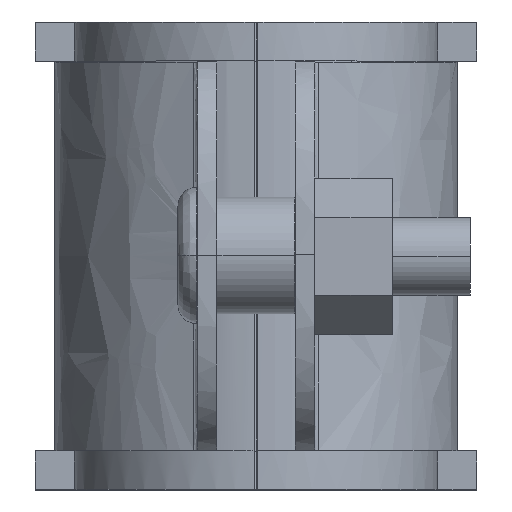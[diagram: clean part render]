
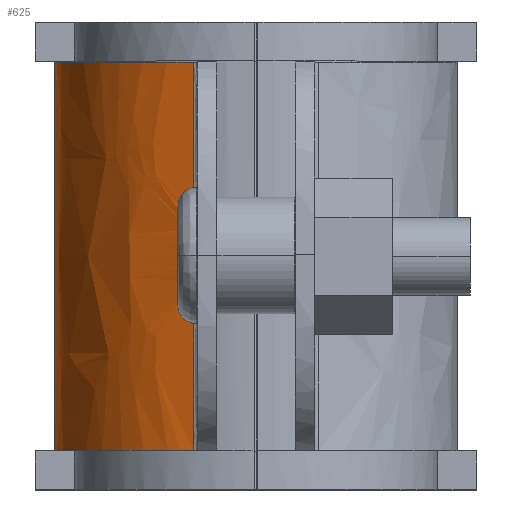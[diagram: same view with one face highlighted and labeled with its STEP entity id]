
A CAD part, top view. The second image highlights one B-rep face of the part: STEP entity #625.
In plain terms, the highlighted free-form (B-spline) face has degree [3, 1] with [4, 2] control points.
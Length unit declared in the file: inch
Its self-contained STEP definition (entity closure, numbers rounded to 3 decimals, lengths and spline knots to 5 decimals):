
#479=EDGE_CURVE('',#1130,#1225,#1226,.T.);
#549=EDGE_CURVE('',#1330,#1225,#1331,.T.);
#625=ADVANCED_FACE('',(#1449),#1450,.T.);
#723=EDGE_CURVE('',#1414,#1130,#1585,.T.);
#835=EDGE_CURVE('',#1736,#1414,#1737,.T.);
#839=EDGE_CURVE('',#1736,#1741,#1742,.T.);
#1130=VERTEX_POINT('',#2140);
#1225=VERTEX_POINT('',#2292);
#1226=B_SPLINE_CURVE_WITH_KNOTS('',3,(#2293,#2294,#2295,#2296),.UNSPECIFIED.,.F.,.F.,(4,4),(0.0,1.0),.UNSPECIFIED.);
#1330=VERTEX_POINT('',#2467);
#1331=LINE('',#2468,#2469);
#1414=VERTEX_POINT('',#2597);
#1449=FACE_OUTER_BOUND('',#2646,.T.);
#1450=B_SPLINE_SURFACE_WITH_KNOTS('',3,1,((#2647,#2648),(#2649,#2650),(#2651,#2652),(#2653,#2654)),.UNSPECIFIED.,.F.,.F.,.F.,(4,4),(2,2),(-1.0,-0.0),(0.0,1.25),.UNSPECIFIED.);
#1585=LINE('',#3059,#3060);
#1736=VERTEX_POINT('',#3382);
#1737=B_SPLINE_CURVE_WITH_KNOTS('',3,(#3383,#3384,#3385,#3386),.UNSPECIFIED.,.F.,.F.,(4,4),(-1.0,-0.0),.UNSPECIFIED.);
#1741=VERTEX_POINT('',#3395);
#1742=LINE('',#3396,#3397);
#2140=CARTESIAN_POINT('',(-0.00041,0.0,1.33029));
#2292=CARTESIAN_POINT('',(0.44449,0.0,1.94408));
#2293=CARTESIAN_POINT('',(-0.00041,0.0,1.33029));
#2294=CARTESIAN_POINT('',(-0.00041,0.0,1.6168));
#2295=CARTESIAN_POINT('',(0.18613,0.0,1.85989));
#2296=CARTESIAN_POINT('',(0.44449,0.0,1.94408));
#2467=CARTESIAN_POINT('',(0.44449,0.51862,1.94408));
#2468=CARTESIAN_POINT('',(0.44449,1.25,1.94408));
#2469=VECTOR('',#4306,1.0);
#2597=CARTESIAN_POINT('',(-0.00041,1.24627,1.33029));
#2646=EDGE_LOOP('',(#4488,#4489,#4490,#4491,#4492,#4493,#4494));
#2647=CARTESIAN_POINT('',(0.44449,1.25,1.94408));
#2648=CARTESIAN_POINT('',(0.44449,0.,1.94408));
#2649=CARTESIAN_POINT('',(0.18613,1.25,1.85989));
#2650=CARTESIAN_POINT('',(0.18613,0.,1.85989));
#2651=CARTESIAN_POINT('',(-0.00041,1.25,1.6168));
#2652=CARTESIAN_POINT('',(-0.00041,0.,1.6168));
#2653=CARTESIAN_POINT('',(-0.00041,1.25,1.33029));
#2654=CARTESIAN_POINT('',(-0.00041,0.,1.33029));
#3059=CARTESIAN_POINT('',(-0.00041,1.25,1.33029));
#3060=VECTOR('',#4676,1.0);
#3382=CARTESIAN_POINT('',(0.44449,1.24627,1.94408));
#3383=CARTESIAN_POINT('',(0.44449,1.24627,1.94408));
#3384=CARTESIAN_POINT('',(0.18613,1.24627,1.85989));
#3385=CARTESIAN_POINT('',(-0.00041,1.24627,1.6168));
#3386=CARTESIAN_POINT('',(-0.00041,1.24627,1.33029));
#3395=CARTESIAN_POINT('',(0.44449,0.73191,1.94408));
#3396=CARTESIAN_POINT('',(0.44449,1.25,1.94408));
#3397=VECTOR('',#4974,1.0);
#4306=DIRECTION('',(0.0,-1.0,0.0));
#4488=ORIENTED_EDGE('',*,*,#5516,.F.);
#4489=ORIENTED_EDGE('',*,*,#839,.F.);
#4490=ORIENTED_EDGE('',*,*,#835,.T.);
#4491=ORIENTED_EDGE('',*,*,#723,.T.);
#4492=ORIENTED_EDGE('',*,*,#479,.T.);
#4493=ORIENTED_EDGE('',*,*,#549,.F.);
#4494=ORIENTED_EDGE('',*,*,#5517,.F.);
#4676=DIRECTION('',(0.0,-1.0,0.0));
#4974=DIRECTION('',(0.0,-1.0,0.0));
#5516=EDGE_CURVE('',#1741,#6042,#6043,.T.);
#5517=EDGE_CURVE('',#6042,#1330,#6044,.T.);
#6042=VERTEX_POINT('',#6862);
#6043=B_SPLINE_CURVE_WITH_KNOTS('',3,(#6863,#6864,#6865,#6866,#6867,#6868,#6869,#6870,#6871,#6872),.UNSPECIFIED.,.F.,.F.,(4,2,2,2,4),(-0.12854,-0.10714,-0.05461,-0.02449,-0.0),.UNSPECIFIED.);
#6044=B_SPLINE_CURVE_WITH_KNOTS('',3,(#6873,#6874,#6875,#6876,#6877,#6878,#6879,#6880,#6881,#6882),.UNSPECIFIED.,.F.,.F.,(4,2,2,2,4),(-0.07927,-0.06566,-0.04948,-0.02197,-0.0),.UNSPECIFIED.);
#6862=CARTESIAN_POINT('',(0.4124,0.62526,1.93266));
#6863=CARTESIAN_POINT('',(0.44449,0.73191,1.94408));
#6864=CARTESIAN_POINT('',(0.44085,0.72853,1.94289));
#6865=CARTESIAN_POINT('',(0.43763,0.72461,1.94181));
#6866=CARTESIAN_POINT('',(0.42792,0.71023,1.93847));
#6867=CARTESIAN_POINT('',(0.42217,0.69661,1.93636));
#6868=CARTESIAN_POINT('',(0.41591,0.66988,1.93401));
#6869=CARTESIAN_POINT('',(0.4144,0.65979,1.93343));
#6870=CARTESIAN_POINT('',(0.41275,0.64166,1.9328));
#6871=CARTESIAN_POINT('',(0.4124,0.63342,1.93266));
#6872=CARTESIAN_POINT('',(0.4124,0.62526,1.93266));
#6873=CARTESIAN_POINT('',(0.4124,0.62526,1.93266));
#6874=CARTESIAN_POINT('',(0.4124,0.61773,1.93266));
#6875=CARTESIAN_POINT('',(0.4127,0.61014,1.93278));
#6876=CARTESIAN_POINT('',(0.41406,0.59374,1.93331));
#6877=CARTESIAN_POINT('',(0.41528,0.58476,1.93377));
#6878=CARTESIAN_POINT('',(0.42011,0.56117,1.93559));
#6879=CARTESIAN_POINT('',(0.4245,0.54851,1.93722));
#6880=CARTESIAN_POINT('',(0.43433,0.52996,1.94069));
#6881=CARTESIAN_POINT('',(0.43926,0.52346,1.94237));
#6882=CARTESIAN_POINT('',(0.44449,0.51862,1.94408));
